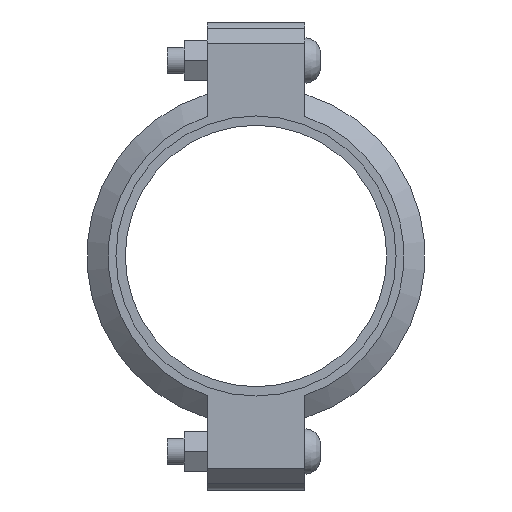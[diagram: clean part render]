
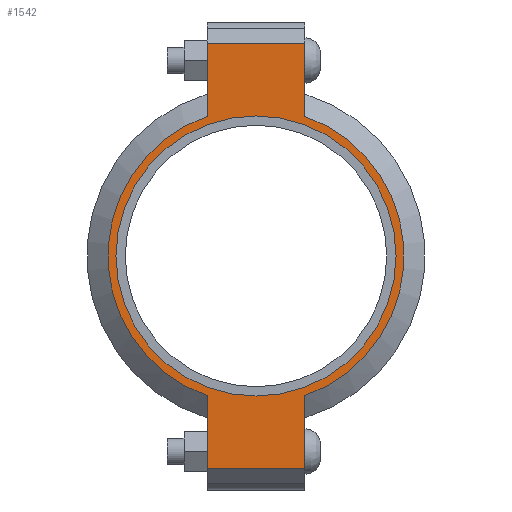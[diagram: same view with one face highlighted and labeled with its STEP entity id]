
A CAD part, left-side view. The second image highlights one B-rep face of the part: STEP entity #1542.
In plain terms, the highlighted planar face has unit normal (-1, 0, 0) as drawn and (0, 0, 1) by its records, which use the part's own axes.
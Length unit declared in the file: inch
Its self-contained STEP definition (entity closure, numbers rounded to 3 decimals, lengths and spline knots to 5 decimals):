
#166=LINE('',#2691,#259);
#174=LINE('',#2727,#267);
#181=LINE('',#2748,#274);
#190=LINE('',#2780,#283);
#191=LINE('',#2784,#284);
#192=LINE('',#2786,#285);
#259=VECTOR('',#2195,0.3937);
#267=VECTOR('',#2211,0.3937);
#274=VECTOR('',#2230,0.3937);
#283=VECTOR('',#2255,0.3937);
#284=VECTOR('',#2260,0.3937);
#285=VECTOR('',#2261,0.3937);
#341=FACE_BOUND('',#519,.T.);
#413=FACE_OUTER_BOUND('',#518,.T.);
#518=EDGE_LOOP('',(#1283,#1284,#1285,#1286,#1287,#1288,#1289,#1290));
#519=EDGE_LOOP('',(#1291));
#591=CIRCLE('',#1761,3.3125);
#617=CIRCLE('',#1820,3.5);
#618=CIRCLE('',#1821,3.5);
#683=VERTEX_POINT('',#2507);
#726=VERTEX_POINT('',#2688);
#727=VERTEX_POINT('',#2690);
#738=VERTEX_POINT('',#2722);
#739=VERTEX_POINT('',#2726);
#746=VERTEX_POINT('',#2745);
#747=VERTEX_POINT('',#2747);
#757=VERTEX_POINT('',#2783);
#758=VERTEX_POINT('',#2785);
#839=EDGE_CURVE('',#683,#683,#591,.T.);
#900=EDGE_CURVE('',#727,#726,#166,.T.);
#914=EDGE_CURVE('',#739,#738,#174,.T.);
#924=EDGE_CURVE('',#747,#746,#181,.T.);
#939=EDGE_CURVE('',#739,#726,#190,.T.);
#940=EDGE_CURVE('',#738,#747,#617,.T.);
#941=EDGE_CURVE('',#757,#746,#191,.T.);
#942=EDGE_CURVE('',#757,#758,#192,.T.);
#943=EDGE_CURVE('',#758,#727,#618,.T.);
#1283=ORIENTED_EDGE('',*,*,#939,.F.);
#1284=ORIENTED_EDGE('',*,*,#914,.T.);
#1285=ORIENTED_EDGE('',*,*,#940,.T.);
#1286=ORIENTED_EDGE('',*,*,#924,.T.);
#1287=ORIENTED_EDGE('',*,*,#941,.F.);
#1288=ORIENTED_EDGE('',*,*,#942,.T.);
#1289=ORIENTED_EDGE('',*,*,#943,.T.);
#1290=ORIENTED_EDGE('',*,*,#900,.T.);
#1291=ORIENTED_EDGE('',*,*,#839,.T.);
#1384=PLANE('',#1819);
#1542=ADVANCED_FACE('',(#413,#341),#1384,.T.);
#1761=AXIS2_PLACEMENT_3D('',#2509,#2071,#2072);
#1819=AXIS2_PLACEMENT_3D('',#2781,#2256,#2257);
#1820=AXIS2_PLACEMENT_3D('',#2782,#2258,#2259);
#1821=AXIS2_PLACEMENT_3D('',#2787,#2262,#2263);
#2071=DIRECTION('center_axis',(0.,0.,-1.));
#2072=DIRECTION('ref_axis',(-1.,0.,0.));
#2195=DIRECTION('',(-1.,0.,0.));
#2211=DIRECTION('',(1.,0.,0.));
#2230=DIRECTION('',(1.,0.,0.));
#2255=DIRECTION('',(0.,1.,0.));
#2256=DIRECTION('center_axis',(0.,0.,1.));
#2257=DIRECTION('ref_axis',(1.,0.,0.));
#2258=DIRECTION('center_axis',(0.,0.,1.));
#2259=DIRECTION('ref_axis',(-1.,0.,0.));
#2260=DIRECTION('',(0.,-1.,0.));
#2261=DIRECTION('',(-1.,0.,0.));
#2262=DIRECTION('center_axis',(0.,0.,1.));
#2263=DIRECTION('ref_axis',(-1.,0.,0.));
#2507=CARTESIAN_POINT('',(3.3125,0.,1.065));
#2509=CARTESIAN_POINT('Origin',(0.,0.,1.065));
#2688=CARTESIAN_POINT('',(-5.035,1.156,1.065));
#2690=CARTESIAN_POINT('',(-3.30358,1.156,1.065));
#2691=CARTESIAN_POINT('',(-5.535,1.156,1.065));
#2722=CARTESIAN_POINT('',(-3.30358,-1.156,1.065));
#2726=CARTESIAN_POINT('',(-5.035,-1.156,1.065));
#2727=CARTESIAN_POINT('',(5.535,-1.156,1.065));
#2745=CARTESIAN_POINT('',(5.035,-1.156,1.065));
#2747=CARTESIAN_POINT('',(3.30358,-1.156,1.065));
#2748=CARTESIAN_POINT('',(5.535,-1.156,1.065));
#2780=CARTESIAN_POINT('',(-5.035,0.578,1.065));
#2781=CARTESIAN_POINT('Origin',(0.,0.,1.065));
#2782=CARTESIAN_POINT('Origin',(0.,0.,1.065));
#2783=CARTESIAN_POINT('',(5.035,1.156,1.065));
#2784=CARTESIAN_POINT('',(5.035,-0.578,1.065));
#2785=CARTESIAN_POINT('',(3.30358,1.156,1.065));
#2786=CARTESIAN_POINT('',(-5.535,1.156,1.065));
#2787=CARTESIAN_POINT('Origin',(0.,0.,1.065));
